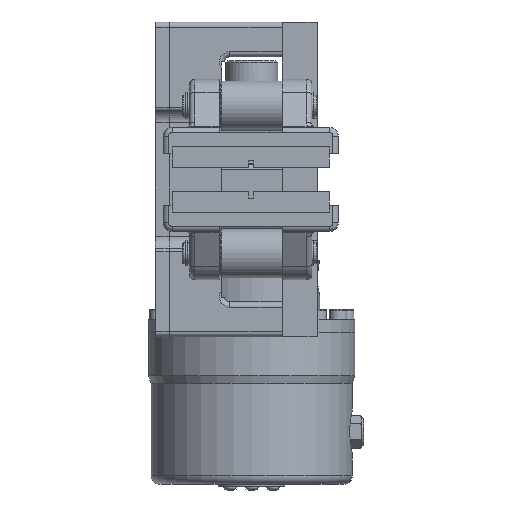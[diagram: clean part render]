
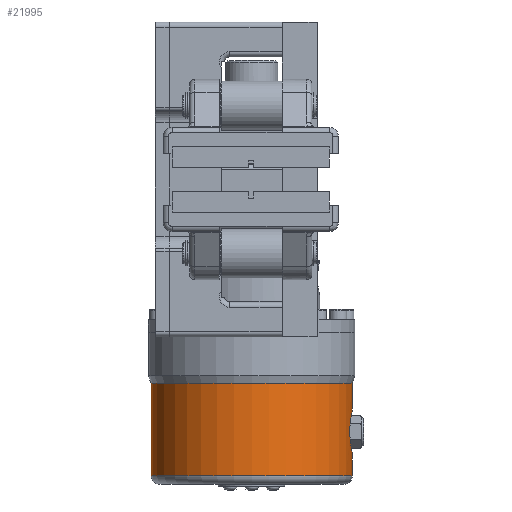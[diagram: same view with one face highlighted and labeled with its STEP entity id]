
A CAD part, front view. The second image highlights one B-rep face of the part: STEP entity #21995.
In plain terms, the highlighted cylindrical face has radius 57.5 mm (diameter 115 mm), a full revolution.
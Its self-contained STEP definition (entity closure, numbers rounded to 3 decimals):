
#345=CYLINDRICAL_SURFACE('',#24122,57.5);
#731=FACE_BOUND('',#6497,.T.);
#2517=LINE('',#37529,#3999);
#3999=VECTOR('',#29438,57.5);
#5220=FACE_OUTER_BOUND('',#6496,.T.);
#6496=EDGE_LOOP('',(#18017,#18018,#18019,#18020,#18021,#18022,#18023));
#6497=EDGE_LOOP('',(#18024,#18025));
#6967=B_SPLINE_CURVE_WITH_KNOTS('',3,(#37427,#37428,#37429,#37430,#37431,
#37432,#37433,#37434,#37435,#37436,#37437,#37438,#37439,#37440,#37441,#37442,
#37443,#37444),.UNSPECIFIED.,.F.,.F.,(4,2,2,2,2,2,2,2,4),(1.89,
2.362,2.835,3.307,3.78,4.252,
4.725,5.197,5.67),.UNSPECIFIED.);
#6968=B_SPLINE_CURVE_WITH_KNOTS('',3,(#37445,#37446,#37447,#37448,#37449,
#37450,#37451,#37452,#37453,#37454,#37455,#37456,#37457,#37458,#37459,#37460,
#37461,#37462,#37463),.UNSPECIFIED.,.F.,.F.,(4,2,2,2,3,2,2,2,4),(5.67,
6.142,6.615,7.087,7.56,8.032,
8.505,8.977,9.45),.UNSPECIFIED.);
#8038=CIRCLE('',#24119,57.5);
#8039=CIRCLE('',#24120,57.5);
#8040=CIRCLE('',#24121,57.5);
#8041=CIRCLE('',#24123,57.5);
#8042=CIRCLE('',#24124,57.5);
#9954=VERTEX_POINT('',#37425);
#9955=VERTEX_POINT('',#37426);
#9962=VERTEX_POINT('',#37520);
#9963=VERTEX_POINT('',#37522);
#9964=VERTEX_POINT('',#37524);
#9965=VERTEX_POINT('',#37528);
#9966=VERTEX_POINT('',#37530);
#12788=EDGE_CURVE('',#9954,#9955,#6967,.T.);
#12789=EDGE_CURVE('',#9955,#9954,#6968,.T.);
#12801=EDGE_CURVE('',#9962,#9963,#8038,.T.);
#12802=EDGE_CURVE('',#9963,#9964,#8039,.T.);
#12803=EDGE_CURVE('',#9964,#9962,#8040,.T.);
#12804=EDGE_CURVE('',#9963,#9965,#2517,.T.);
#12805=EDGE_CURVE('',#9965,#9966,#8041,.T.);
#12806=EDGE_CURVE('',#9966,#9965,#8042,.T.);
#18017=ORIENTED_EDGE('',*,*,#12803,.F.);
#18018=ORIENTED_EDGE('',*,*,#12802,.F.);
#18019=ORIENTED_EDGE('',*,*,#12804,.T.);
#18020=ORIENTED_EDGE('',*,*,#12805,.T.);
#18021=ORIENTED_EDGE('',*,*,#12806,.T.);
#18022=ORIENTED_EDGE('',*,*,#12804,.F.);
#18023=ORIENTED_EDGE('',*,*,#12801,.F.);
#18024=ORIENTED_EDGE('',*,*,#12788,.T.);
#18025=ORIENTED_EDGE('',*,*,#12789,.T.);
#21995=ADVANCED_FACE('',(#5220,#731),#345,.T.);
#24119=AXIS2_PLACEMENT_3D('',#37523,#29430,#29431);
#24120=AXIS2_PLACEMENT_3D('',#37525,#29432,#29433);
#24121=AXIS2_PLACEMENT_3D('',#37526,#29434,#29435);
#24122=AXIS2_PLACEMENT_3D('',#37527,#29436,#29437);
#24123=AXIS2_PLACEMENT_3D('',#37531,#29439,#29440);
#24124=AXIS2_PLACEMENT_3D('',#37532,#29441,#29442);
#29430=DIRECTION('center_axis',(0.,0.,
-1.));
#29431=DIRECTION('ref_axis',(-1.,0.,0.));
#29432=DIRECTION('center_axis',(0.,0.,
-1.));
#29433=DIRECTION('ref_axis',(-1.,0.,0.));
#29434=DIRECTION('center_axis',(0.,0.,
-1.));
#29435=DIRECTION('ref_axis',(-1.,0.,0.));
#29436=DIRECTION('center_axis',(0.,0.,
-1.));
#29437=DIRECTION('ref_axis',(1.,0.,0.));
#29438=DIRECTION('',(0.,0.,1.));
#29439=DIRECTION('center_axis',(0.,0.,
-1.));
#29440=DIRECTION('ref_axis',(1.,0.,0.));
#29441=DIRECTION('center_axis',(0.,0.,
-1.));
#29442=DIRECTION('ref_axis',(1.,0.,0.));
#37425=CARTESIAN_POINT('',(104.5,140.,-131.75));
#37426=CARTESIAN_POINT('',(104.5,140.,-156.75));
#37427=CARTESIAN_POINT('Ctrl Pts',(104.5,140.,-131.75));
#37428=CARTESIAN_POINT('Ctrl Pts',(104.5,141.575,-131.75));
#37429=CARTESIAN_POINT('Ctrl Pts',(104.429,143.251,-132.066));
#37430=CARTESIAN_POINT('Ctrl Pts',(104.171,146.33,-133.343));
#37431=CARTESIAN_POINT('Ctrl Pts',(103.989,147.732,-134.304));
#37432=CARTESIAN_POINT('Ctrl Pts',(103.644,149.946,-136.518));
#37433=CARTESIAN_POINT('Ctrl Pts',(103.46,150.907,-137.92));
#37434=CARTESIAN_POINT('Ctrl Pts',(103.198,152.184,-140.999));
#37435=CARTESIAN_POINT('Ctrl Pts',(103.125,152.5,-142.675));
#37436=CARTESIAN_POINT('Ctrl Pts',(103.125,152.5,-145.825));
#37437=CARTESIAN_POINT('Ctrl Pts',(103.198,152.184,-147.501));
#37438=CARTESIAN_POINT('Ctrl Pts',(103.46,150.907,-150.58));
#37439=CARTESIAN_POINT('Ctrl Pts',(103.644,149.946,-151.982));
#37440=CARTESIAN_POINT('Ctrl Pts',(103.989,147.732,-154.196));
#37441=CARTESIAN_POINT('Ctrl Pts',(104.171,146.33,-155.157));
#37442=CARTESIAN_POINT('Ctrl Pts',(104.429,143.251,-156.434));
#37443=CARTESIAN_POINT('Ctrl Pts',(104.5,141.575,-156.75));
#37444=CARTESIAN_POINT('Ctrl Pts',(104.5,140.,-156.75));
#37445=CARTESIAN_POINT('Ctrl Pts',(104.5,140.,-156.75));
#37446=CARTESIAN_POINT('Ctrl Pts',(104.5,138.425,-156.75));
#37447=CARTESIAN_POINT('Ctrl Pts',(104.429,136.749,-156.434));
#37448=CARTESIAN_POINT('Ctrl Pts',(104.171,133.67,-155.157));
#37449=CARTESIAN_POINT('Ctrl Pts',(103.989,132.268,-154.196));
#37450=CARTESIAN_POINT('Ctrl Pts',(103.644,130.054,-151.982));
#37451=CARTESIAN_POINT('Ctrl Pts',(103.46,129.093,-150.58));
#37452=CARTESIAN_POINT('Ctrl Pts',(103.198,127.816,-147.501));
#37453=CARTESIAN_POINT('Ctrl Pts',(103.125,127.5,-145.825));
#37454=CARTESIAN_POINT('Ctrl Pts',(103.125,127.5,-144.25));
#37455=CARTESIAN_POINT('Ctrl Pts',(103.125,127.5,-142.675));
#37456=CARTESIAN_POINT('Ctrl Pts',(103.198,127.816,-140.999));
#37457=CARTESIAN_POINT('Ctrl Pts',(103.46,129.093,-137.92));
#37458=CARTESIAN_POINT('Ctrl Pts',(103.644,130.054,-136.518));
#37459=CARTESIAN_POINT('Ctrl Pts',(103.989,132.268,-134.304));
#37460=CARTESIAN_POINT('Ctrl Pts',(104.171,133.67,-133.343));
#37461=CARTESIAN_POINT('Ctrl Pts',(104.429,136.749,-132.066));
#37462=CARTESIAN_POINT('Ctrl Pts',(104.5,138.425,-131.75));
#37463=CARTESIAN_POINT('Ctrl Pts',(104.5,140.,-131.75));
#37520=CARTESIAN_POINT('',(47.,82.5,-169.25));
#37522=CARTESIAN_POINT('',(-10.5,140.,-169.25));
#37523=CARTESIAN_POINT('Origin',(47.,140.,-169.25));
#37524=CARTESIAN_POINT('',(104.5,140.,-169.25));
#37525=CARTESIAN_POINT('Origin',(47.,140.,-169.25));
#37526=CARTESIAN_POINT('Origin',(47.,140.,-169.25));
#37527=CARTESIAN_POINT('Origin',(47.,140.,-145.311));
#37528=CARTESIAN_POINT('',(-10.5,140.,-116.371));
#37529=CARTESIAN_POINT('',(-10.5,140.,-145.311));
#37530=CARTESIAN_POINT('',(104.5,140.,-116.371));
#37531=CARTESIAN_POINT('Origin',(47.,140.,-116.371));
#37532=CARTESIAN_POINT('Origin',(47.,140.,-116.371));
